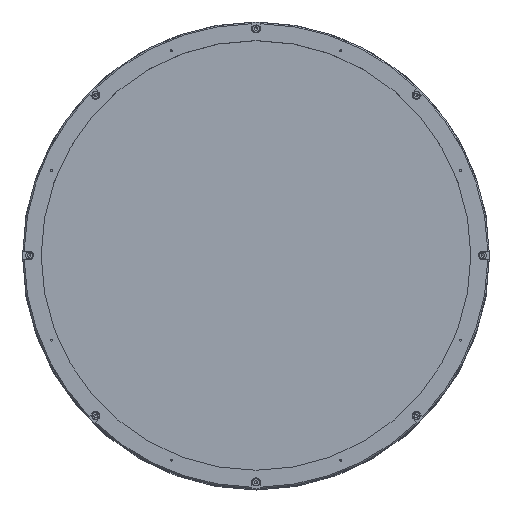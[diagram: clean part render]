
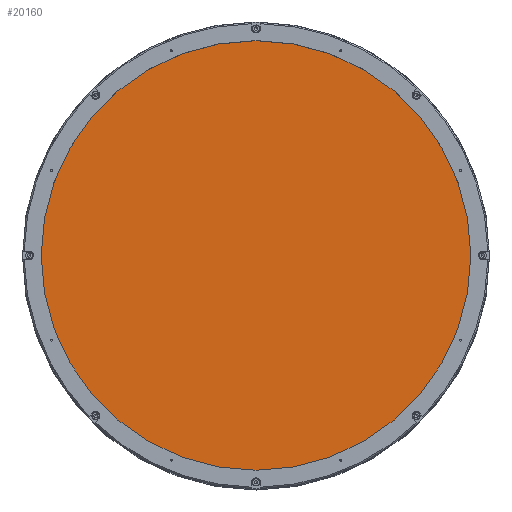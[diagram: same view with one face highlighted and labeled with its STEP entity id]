
A CAD part, top view. The second image highlights one B-rep face of the part: STEP entity #20160.
In plain terms, the highlighted planar face has unit normal (0, 0, 1).
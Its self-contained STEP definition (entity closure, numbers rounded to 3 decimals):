
#7248 = CARTESIAN_POINT ( 'NONE',  ( 0., 0., 660. ) ) ;
#7499 = AXIS2_PLACEMENT_3D ( 'NONE', #7248, #22094, #9416 ) ;
#8650 = AXIS2_PLACEMENT_3D ( 'NONE', #22497, #9826, #24564 ) ;
#9416 = DIRECTION ( 'NONE',  ( -1., 0., 0. ) ) ;
#9826 = DIRECTION ( 'NONE',  ( 0., 0., -1. ) ) ;
#12111 = CARTESIAN_POINT ( 'NONE',  ( -161., 0., 660. ) ) ;
#14045 = PLANE ( 'NONE',  #8650 ) ;
#20160 = ADVANCED_FACE ( 'NONE', ( #24239 ), #14045, .F. ) ;
#20823 = ORIENTED_EDGE ( 'NONE', *, *, #23705, .F. ) ;
#21706 = CIRCLE ( 'NONE', #7499, 161. ) ;
#22094 = DIRECTION ( 'NONE',  ( 0., 0., -1. ) ) ;
#22497 = CARTESIAN_POINT ( 'NONE',  ( 0., 0., 660. ) ) ;
#23705 = EDGE_CURVE ( 'NONE', #26760, #26760, #21706, .T. ) ;
#24179 = EDGE_LOOP ( 'NONE', ( #20823 ) ) ;
#24239 = FACE_OUTER_BOUND ( 'NONE', #24179, .T. ) ;
#24564 = DIRECTION ( 'NONE',  ( -1., 0., 0. ) ) ;
#26760 = VERTEX_POINT ( 'NONE', #12111 ) ;
